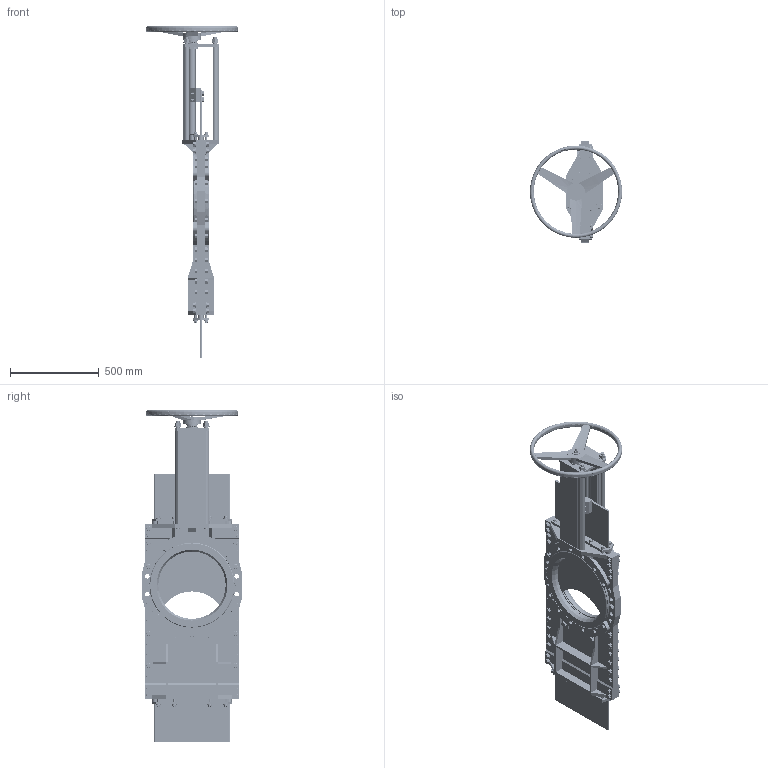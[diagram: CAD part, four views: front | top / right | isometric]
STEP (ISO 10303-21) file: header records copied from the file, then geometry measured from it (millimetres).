
FILE_DESCRIPTION(('STEP AP203'),'1');
FILE_NAME('G:/KONSTRUK/3-d block för CD/HG VALVE/HAND WHEEL/HG400-PN10-HW.stp','2012-12-03T09:53:54',(' '),(' '),'Spatial InterOp 3D',' ',' ');
FILE_SCHEMA(('CONFIG_CONTROL_DESIGN'));
Length unit declared in the file: millimetre
Products named in the file (1): 1
Bounding box: 520 x 570 x 1873.75 mm (x, y, z)
Volume: 36075392.3 mm3; surface area: 5575449.2 mm2
Topology: 1 solids, 52 shells, 4342 faces, 10048 edges, 6242 vertices
Faces by surface type: plane 1594, cone 1540, cylinder 1198, torus 10
Entity records: 131201 total; most frequent: CARTESIAN_POINT 32447, DIRECTION 21184, ORIENTED_EDGE 20024, EDGE_CURVE 10012, AXIS2_PLACEMENT_3D 8682, VERTEX_POINT 6242, EDGE_LOOP 4972, ADVANCED_FACE 4342
